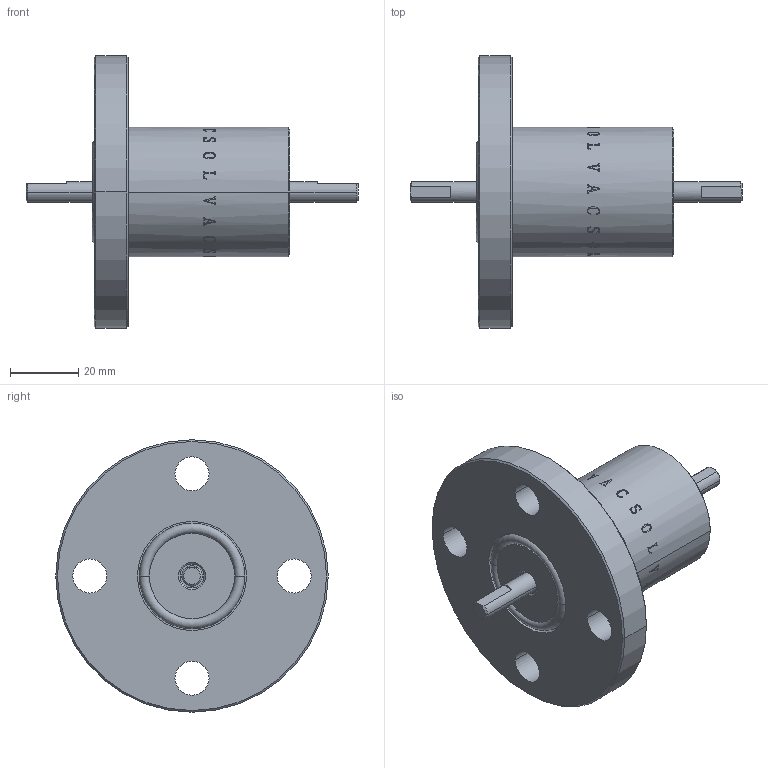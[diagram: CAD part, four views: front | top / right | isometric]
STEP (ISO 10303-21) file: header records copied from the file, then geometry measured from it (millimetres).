
FILE_DESCRIPTION (( 'STEP AP214' ), '1' );
FILE_NAME ('m6.STEP', '2010-08-26T11:39:17', ( 'user' ), ( '' ), 'SwSTEP 2.0', 'SolidWorks 2007', '' );
FILE_SCHEMA (( 'AUTOMOTIVE_DESIGN' ));
Length unit declared in the file: millimetre
Products named in the file (1): m6
Bounding box: 97.5 x 80 x 80 mm (x, y, z)
Volume: 101816.9 mm3; surface area: 20822.5 mm2
Topology: 2 solids, 2 shells, 381 faces, 1024 edges, 676 vertices
Faces by surface type: bspline 255, plane 58, cylinder 48, cone 16, torus 4
Entity records: 38659 total; most frequent: CARTESIAN_POINT 27622, ORIENTED_EDGE 2048, EDGE_CURVE 1024, B_SPLINE_CURVE_WITH_KNOTS 805, VERTEX_POINT 676, DIRECTION 603, EDGE_LOOP 420, ADVANCED_FACE 381
